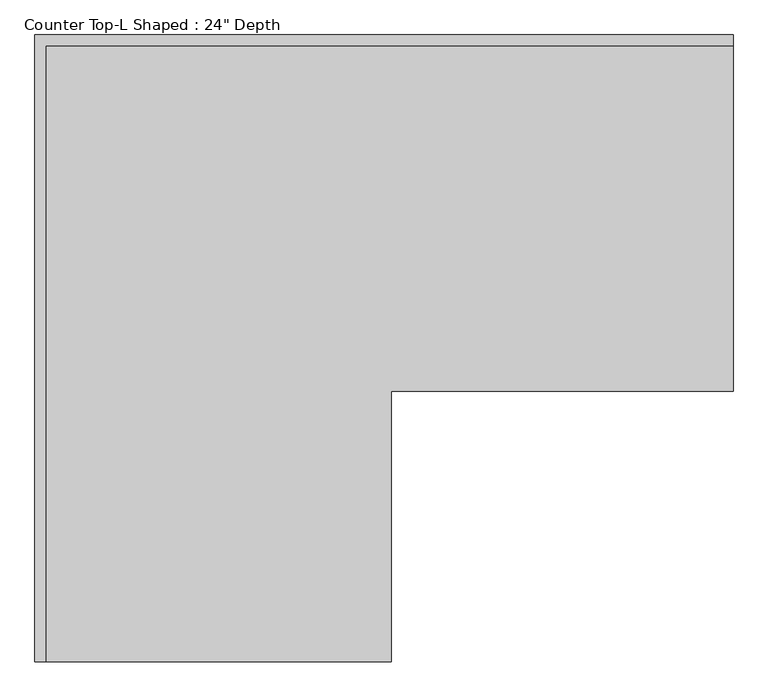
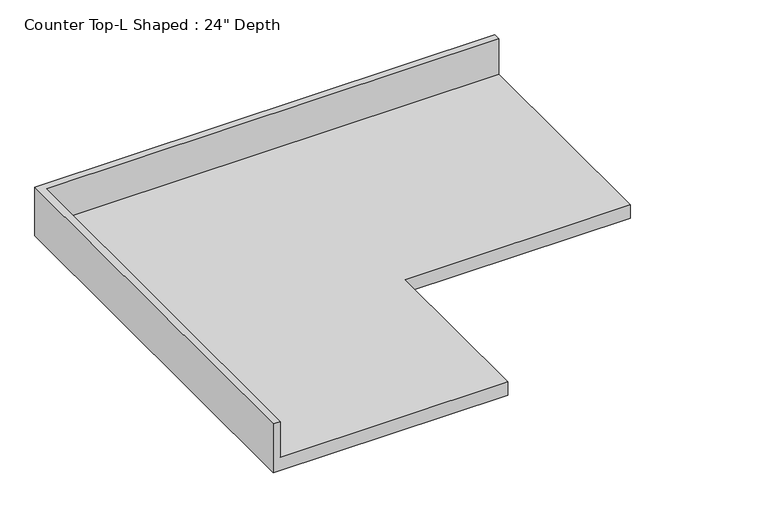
"""IFC4 building model written with IfcOpenShell, lengths in millimetres: furniture geometry."""

from ifc_helpers import new_model, si_unit, origin, place, context, project, spatial, faceted_brep, source, transform, mapped, element, save


def furniture_41abb01d(model_context):
    return source(origin(), model_context, "Body", "Brep", [
        faceted_brep([(-565.4622951, -1117.6, 914.4), (-565.4622951, -635.0, 914.4), (44.1377049, -635.0, 914.4), (44.1377049, -19.05, 914.4), (-1181.4122951, -19.05, 914.4), (-1181.4122951, -1117.6, 914.4), (44.1377049, 0.0, 876.3), (44.1377049, -635.0, 876.3), (-565.4622951, -635.0, 876.3), (-565.4622951, -1117.6, 876.3), (-1200.4622951, -1117.6, 876.3), (-1200.4622951, 0.0, 876.3), (-1200.4622951, 0.0, 1016.0), (44.1377049, 0.0, 1016.0), (-1200.4622951, -1117.6, 1016.0), (-1181.4122951, -1117.6, 1016.0), (44.1377049, -19.05, 1016.0), (-1181.4122951, -19.05, 1016.0)], [[[0, 1, 2, 3, 4, 5]], [[6, 7, 8, 9, 10, 11]], [[6, 11, 12, 13]], [[11, 10, 14, 12]], [[14, 10, 9, 0, 5, 15]], [[1, 0, 9, 8]], [[2, 1, 8, 7]], [[7, 6, 13, 16, 3, 2]], [[12, 14, 15, 17, 16, 13]], [[3, 16, 17, 4]], [[17, 15, 5, 4]]]),
    ])


if __name__ == "__main__":
    model = new_model("IFC4")
    model_context = context("Model", 3, world=origin())
    ifc_project = project(units=[si_unit("LENGTHUNIT", "METRE", prefix="MILLI")], contexts=[model_context])
    site = spatial("IfcSite", under=ifc_project)
    building = spatial("IfcBuilding", under=site)
    placement = place(None, origin())
    furniture_shape = furniture_41abb01d(model_context)
    element("IfcFurniture", 1, ObjectType="Counter Top-L Shaped : 24\" Depth", at=placement, inside=building, context=model_context, shape_type="MappedRepresentation", body=[
        mapped(furniture_shape, transform((0.0, 0.0, 0.0), x_axis=(1.0, 0.0, 0.0), y_axis=(0.0, 1.0, 0.0), z_axis=(0.0, 0.0, 1.0))),
    ])
    save(model, "model.ifc")
